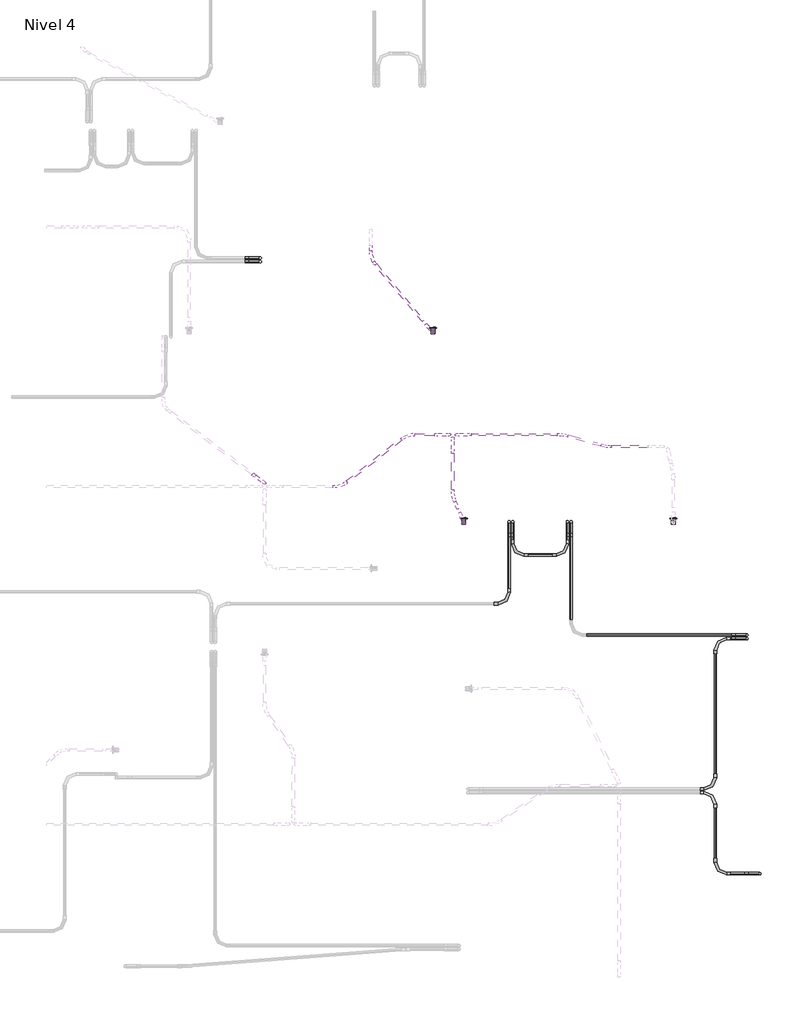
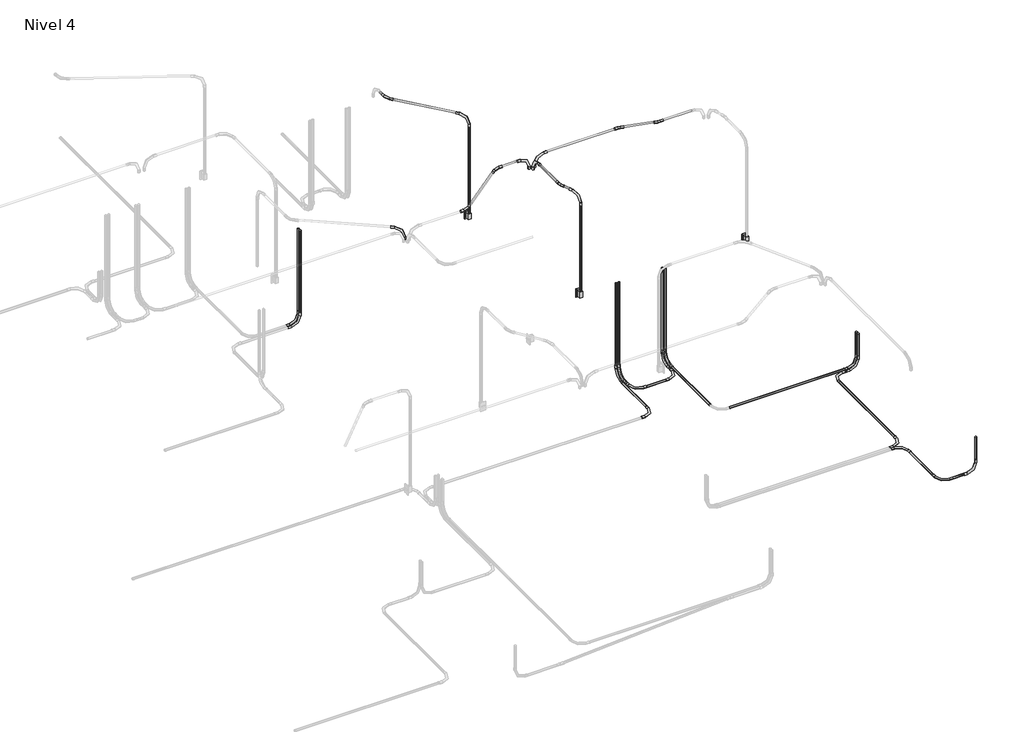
# One storey, part 4 of 9: 30 cable carrier segments, 28 cable carrier fittings, 3 switching devices.
"""IFC4 building model written with IfcOpenShell, lengths in millimetres."""

from ifc_helpers import new_model, si_unit, point, frame, frame_2d, origin, place, context, project, spatial, circle_curve, trimmed, segment, composite_curve, outline, extrude, transform, mapped, element, save
from components import m_codo_de_tubo_extremo_liso_pvc_9da73e12, m_codo_de_tubo_extremo_liso_pvc_102f0f41, m_codo_de_tubo_extremo_liso_pvc_ceb821ea, m_codo_de_tubo_extremo_liso_pvc_a7355fb1, m_codo_de_tubo_extremo_liso_pvc_d450ba0d, m_codo_de_tubo_extremo_liso_pvc_b46efc4b, switching_device_22fed34b

model = new_model("IFC4")

# Units and contexts
model_context = context("Model", 3, world=origin())
ifc_project = project(units=[si_unit("LENGTHUNIT", "METRE", prefix="MILLI")], contexts=[model_context])

# Site, building, storey
site = spatial("IfcSite", under=ifc_project)
building = spatial("IfcBuilding", under=site)
storey = spatial("IfcBuildingStorey", under=building, Name="Nivel 4", Elevation=8100.0)

# Cable carrier fittings
placement = place(None, origin())
m_codo_de_tubo_extremo_liso_pvc_shape = m_codo_de_tubo_extremo_liso_pvc_9da73e12(model_context)
element("IfcCableCarrierFitting", 1, ObjectType="M_Codo de tubo - Extremo liso - PVC : CODO POTENCIA", at=placement, inside=storey, context=model_context, shape_type="MappedRepresentation", body=[
    mapped(m_codo_de_tubo_extremo_liso_pvc_shape, transform((4214.6371118, 7687.1296392, 8030.0), x_axis=(0.0, 0.0, -1.0), y_axis=(-1.0, 0.0, 0.0), z_axis=(0.0, 1.0, 0.0))),
])
element("IfcCableCarrierFitting", 2, ObjectType="M_Codo de tubo - Extremo liso - PVC : CODO POTENCIA", at=placement, inside=storey, context=model_context, shape_type="MappedRepresentation", body=[
    mapped(m_codo_de_tubo_extremo_liso_pvc_shape, transform((4214.6371118, 7723.1932788, 8030.0), x_axis=(0.0, 0.0, -1.0), y_axis=(-1.0, 0.0, 0.0), z_axis=(0.0, 1.0, 0.0))),
])
element("IfcCableCarrierFitting", 3, ObjectType="M_Codo de tubo - Extremo liso - PVC : CODO POTENCIA", at=placement, inside=storey, context=model_context, shape_type="MappedRepresentation", body=[
    mapped(m_codo_de_tubo_extremo_liso_pvc_shape, transform((9244.6371118, 1529.9675815, 8030.0), x_axis=(0.0, 0.0, -1.0), y_axis=(-1.0, 0.0, 0.0), z_axis=(0.0, 1.0, 0.0))),
])
element("IfcCableCarrierFitting", 4, ObjectType="M_Codo de tubo - Extremo liso - PVC : CODO POTENCIA", at=placement, inside=storey, context=model_context, shape_type="MappedRepresentation", body=[
    mapped(m_codo_de_tubo_extremo_liso_pvc_shape, transform((9114.6371118, 3893.7800226, 8030.0), x_axis=(0.0, 0.0, -1.0), y_axis=(-1.0, 0.0, 0.0), z_axis=(0.0, 1.0, 0.0))),
])
element("IfcCableCarrierFitting", 5, ObjectType="M_Codo de tubo - Extremo liso - PVC : CODO POTENCIA", at=placement, inside=storey, context=model_context, shape_type="MappedRepresentation", body=[
    mapped(m_codo_de_tubo_extremo_liso_pvc_shape, transform((8794.6371118, 2344.5282763, 8030.0), x_axis=(0.0, 1.0, 0.0), y_axis=(-1.0, 0.0, 0.0), z_axis=(0.0, 0.0, 1.0))),
])
element("IfcCableCarrierFitting", 6, ObjectType="M_Codo de tubo - Extremo liso - PVC : CODO POTENCIA", at=placement, inside=storey, context=model_context, shape_type="MappedRepresentation", body=[
    mapped(m_codo_de_tubo_extremo_liso_pvc_shape, transform((8794.6371118, 1529.9675815, 8030.0), x_axis=(0.0, -1.0, 0.0), y_axis=(1.0, 0.0, 0.0), z_axis=(0.0, 0.0, 1.0))),
])
element("IfcCableCarrierFitting", 7, ObjectType="M_Codo de tubo - Extremo liso - PVC : CODO POTENCIA", at=placement, inside=storey, context=model_context, shape_type="MappedRepresentation", body=[
    mapped(m_codo_de_tubo_extremo_liso_pvc_shape, transform((8794.6371118, 3893.7800226, 8030.0), x_axis=(-1.0, 0.0, 0.0), y_axis=(0.0, -1.0, 0.0), z_axis=(0.0, 0.0, 1.0))),
])
element("IfcCableCarrierFitting", 8, ObjectType="M_Codo de tubo - Extremo liso - PVC : CODO POTENCIA", at=placement, inside=storey, context=model_context, shape_type="MappedRepresentation", body=[
    mapped(m_codo_de_tubo_extremo_liso_pvc_shape, transform((8794.6371118, 2380.5919159, 8030.0), x_axis=(1.0, 0.0, 0.0), y_axis=(0.0, 1.0, 0.0), z_axis=(0.0, 0.0, 1.0))),
])
element("IfcCableCarrierFitting", 9, ObjectType="M_Codo de tubo - Extremo liso - PVC : CODO POTENCIA", at=placement, inside=storey, context=model_context, shape_type="MappedRepresentation", body=[
    mapped(m_codo_de_tubo_extremo_liso_pvc_shape, transform((7343.1290455, 5070.3628882, 8030.0), x_axis=(0.0, 0.0, -1.0), y_axis=(0.0, -1.0, 0.0), z_axis=(-1.0, 0.0, 0.0))),
])
element("IfcCableCarrierFitting", 10, ObjectType="M_Codo de tubo - Extremo liso - PVC : CODO POTENCIA", at=placement, inside=storey, context=model_context, shape_type="MappedRepresentation", body=[
    mapped(m_codo_de_tubo_extremo_liso_pvc_shape, transform((7307.0654059, 5070.3628882, 8030.0), x_axis=(0.0, 0.0, -1.0), y_axis=(0.0, -1.0, 0.0), z_axis=(-1.0, 0.0, 0.0))),
])
element("IfcCableCarrierFitting", 11, ObjectType="M_Codo de tubo - Extremo liso - PVC : CODO POTENCIA", at=placement, inside=storey, context=model_context, shape_type="MappedRepresentation", body=[
    mapped(m_codo_de_tubo_extremo_liso_pvc_shape, transform((6755.4901534, 5070.3628882, 8030.0), x_axis=(0.0, 0.0, -1.0), y_axis=(0.0, -1.0, 0.0), z_axis=(-1.0, 0.0, 0.0))),
])
element("IfcCableCarrierFitting", 12, ObjectType="M_Codo de tubo - Extremo liso - PVC : CODO POTENCIA", at=placement, inside=storey, context=model_context, shape_type="MappedRepresentation", body=[
    mapped(m_codo_de_tubo_extremo_liso_pvc_shape, transform((6719.4265137, 5070.3628882, 8030.0), x_axis=(0.0, 0.0, -1.0), y_axis=(0.0, -1.0, 0.0), z_axis=(-1.0, 0.0, 0.0))),
])
element("IfcCableCarrierFitting", 13, ObjectType="M_Codo de tubo - Extremo liso - PVC : CODO POTENCIA", at=placement, inside=storey, context=model_context, shape_type="MappedRepresentation", body=[
    mapped(m_codo_de_tubo_extremo_liso_pvc_shape, transform((7307.0654059, 4735.4544528, 8030.0), x_axis=(1.0, 0.0, 0.0), y_axis=(0.0, 1.0, 0.0), z_axis=(0.0, 0.0, 1.0))),
])
element("IfcCableCarrierFitting", 14, ObjectType="M_Codo de tubo - Extremo liso - PVC : CODO POTENCIA", at=placement, inside=storey, context=model_context, shape_type="MappedRepresentation", body=[
    mapped(m_codo_de_tubo_extremo_liso_pvc_shape, transform((6755.4901534, 4735.4544528, 8030.0), x_axis=(0.0, -1.0, 0.0), y_axis=(1.0, 0.0, 0.0), z_axis=(0.0, 0.0, 1.0))),
])
element("IfcCableCarrierFitting", 15, ObjectType="M_Codo de tubo - Extremo liso - PVC : CODO POTENCIA", at=placement, inside=storey, context=model_context, shape_type="MappedRepresentation", body=[
    mapped(m_codo_de_tubo_extremo_liso_pvc_shape, transform((9114.6371118, 3929.8436623, 8030.0), x_axis=(0.0, 0.0, -1.0), y_axis=(-1.0, 0.0, 0.0), z_axis=(0.0, 1.0, 0.0))),
])
element("IfcCableCarrierFitting", 16, ObjectType="M_Codo de tubo - Extremo liso - PVC : CODO POTENCIA", at=placement, inside=storey, context=model_context, shape_type="MappedRepresentation", body=[
    mapped(m_codo_de_tubo_extremo_liso_pvc_shape, transform((6719.4265137, 4245.3628882, 8030.0), x_axis=(1.0, 0.0, 0.0), y_axis=(0.0, 1.0, 0.0), z_axis=(0.0, 0.0, 1.0))),
])
element("IfcCableCarrierFitting", 17, ObjectType="M_Codo de tubo - Extremo liso - PVC : CODO ILUMINACION", at=placement, inside=storey, context=model_context, shape_type="MappedRepresentation", body=[
    mapped(m_codo_de_tubo_extremo_liso_pvc_shape, transform((6187.5450067, 5945.2494875, 10650.0), x_axis=(-1.0, 0.0, 0.0), y_axis=(0.0, 0.0, -1.0), z_axis=(0.0, -1.0, 0.0))),
])
element("IfcCableCarrierFitting", 18, ObjectType="M_Codo de tubo - Extremo liso - PVC : CODO ILUMINACION", at=placement, inside=storey, context=model_context, shape_type="MappedRepresentation", body=[
    mapped(m_codo_de_tubo_extremo_liso_pvc_shape, transform((6151.3238073, 5913.4404259, 10650.0), x_axis=(0.0, 1.0, 0.0), y_axis=(0.0, 0.0, -1.0), z_axis=(-1.0, 0.0, 0.0))),
])
element("IfcCableCarrierFitting", 19, ObjectType="M_Codo de tubo - Extremo liso - PVC : CODO ILUMINACION", at=placement, inside=storey, context=model_context, shape_type="MappedRepresentation", body=[
    mapped(m_codo_de_tubo_extremo_liso_pvc_shape, transform((6262.8378124, 5056.8611243, 10650.0), x_axis=(0.0, 0.0, 1.0), y_axis=(-0.3790250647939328, 0.9253864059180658, 0.0), z_axis=(-0.9253864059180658, -0.3790250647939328, 0.0))),
])
element("IfcCableCarrierFitting", 20, ObjectType="M_Codo de tubo - Extremo liso - PVC : CODO ILUMINACION", at=placement, inside=storey, context=model_context, shape_type="MappedRepresentation", body=[
    mapped(m_codo_de_tubo_extremo_liso_pvc_shape, transform((5952.4011855, 6971.8611243, 10650.0), x_axis=(0.0, 0.0, 1.0), y_axis=(-0.6427876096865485, 0.7660444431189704, 0.0), z_axis=(-0.7660444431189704, -0.6427876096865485, 0.0))),
])
m_codo_de_tubo_extremo_liso_pvc_2_shape = m_codo_de_tubo_extremo_liso_pvc_102f0f41(model_context)
element("IfcCableCarrierFitting", 21, ObjectType="M_Codo de tubo - Extremo liso - PVC : CODO ILUMINACION", at=placement, inside=storey, context=model_context, shape_type="MappedRepresentation", body=[
    mapped(m_codo_de_tubo_extremo_liso_pvc_2_shape, transform((6119.5147457, 5945.2494875, 10650.0), x_axis=(1.0, 0.0, 0.0), y_axis=(0.0, 0.0, 1.0), z_axis=(0.0, -1.0, 0.0))),
])
element("IfcCableCarrierFitting", 22, ObjectType="M_Codo de tubo - Extremo liso - PVC : CODO ILUMINACION", at=placement, inside=storey, context=model_context, shape_type="MappedRepresentation", body=[
    mapped(m_codo_de_tubo_extremo_liso_pvc_2_shape, transform((4258.2410998, 5458.3054211, 10650.0), x_axis=(0.798635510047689, -0.6018150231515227, 0.0), y_axis=(0.0, 0.0, 1.0), z_axis=(-0.6018150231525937, -0.7986355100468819, 0.0))),
])
m_codo_de_tubo_extremo_liso_pvc_3_shape = m_codo_de_tubo_extremo_liso_pvc_ceb821ea(model_context)
element("IfcCableCarrierFitting", 23, ObjectType="M_Codo de tubo - Extremo liso - PVC : CODO ILUMINACION", at=placement, inside=storey, context=model_context, shape_type="MappedRepresentation", body=[
    mapped(m_codo_de_tubo_extremo_liso_pvc_3_shape, transform((7259.9450067, 5945.2494875, 10650.0), x_axis=(-0.9646302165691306, 0.2636068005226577, 0.0), y_axis=(-0.2636068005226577, -0.9646302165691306, 0.0), z_axis=(0.0, 0.0, 1.0))),
])
element("IfcCableCarrierFitting", 24, ObjectType="M_Codo de tubo - Extremo liso - PVC : CODO ILUMINACION", at=placement, inside=storey, context=model_context, shape_type="MappedRepresentation", body=[
    mapped(m_codo_de_tubo_extremo_liso_pvc_3_shape, transform((7696.9235905, 5825.8353075, 10650.0), x_axis=(0.9646302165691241, -0.2636068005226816, 0.0), y_axis=(0.2636068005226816, 0.9646302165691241, 0.0), z_axis=(0.0, 0.0, 1.0))),
])
m_codo_de_tubo_extremo_liso_pvc_4_shape = m_codo_de_tubo_extremo_liso_pvc_a7355fb1(model_context)
element("IfcCableCarrierFitting", 25, ObjectType="M_Codo de tubo - Extremo liso - PVC : CODO ILUMINACION", at=placement, inside=storey, context=model_context, shape_type="MappedRepresentation", body=[
    mapped(m_codo_de_tubo_extremo_liso_pvc_4_shape, transform((5693.9543175, 5945.2494875, 10650.0), x_axis=(-1.0, 0.0, 0.0), y_axis=(0.0, -1.0, 0.0), z_axis=(0.0, 0.0, 1.0))),
])
element("IfcCableCarrierFitting", 26, ObjectType="M_Codo de tubo - Extremo liso - PVC : CODO ILUMINACION", at=placement, inside=storey, context=model_context, shape_type="MappedRepresentation", body=[
    mapped(m_codo_de_tubo_extremo_liso_pvc_4_shape, transform((5025.7404165, 5423.1835713, 10650.0), x_axis=(1.0, 0.0, 0.0), y_axis=(0.0, 1.0, 0.0), z_axis=(0.0, 0.0, 1.0))),
])
m_codo_de_tubo_extremo_liso_pvc_5_shape = m_codo_de_tubo_extremo_liso_pvc_d450ba0d(model_context)
element("IfcCableCarrierFitting", 27, ObjectType="M_Codo de tubo - Extremo liso - PVC : CODO ILUMINACION", at=placement, inside=storey, context=model_context, shape_type="MappedRepresentation", body=[
    mapped(m_codo_de_tubo_extremo_liso_pvc_5_shape, transform((6151.3238073, 5329.1215998, 10650.0), x_axis=(0.0, -1.0, 0.0), y_axis=(1.0, 0.0, 0.0), z_axis=(0.0, 0.0, 1.0))),
])
m_codo_de_tubo_extremo_liso_pvc_6_shape = m_codo_de_tubo_extremo_liso_pvc_b46efc4b(model_context)
element("IfcCableCarrierFitting", 28, ObjectType="M_Codo de tubo - Extremo liso - PVC : CODO ILUMINACION", at=placement, inside=storey, context=model_context, shape_type="MappedRepresentation", body=[
    mapped(m_codo_de_tubo_extremo_liso_pvc_6_shape, transform((5326.8335186, 7717.3836388, 10650.0), x_axis=(0.0, -1.0, 0.0), y_axis=(1.0, 0.0, 0.0), z_axis=(0.0, 0.0, 1.0))),
])

# Cable carrier segments
element("IfcCableCarrierSegment", 29, ObjectType="PVC-SEL, POTENCIA", at=placement, inside=storey, context=model_context, shape_type="SweptSolid", body=[
    extrude(outline(composite_curve([segment(trimmed(circle_curve(frame_2d((4214.6371118, 7723.1932788)), 11.71), [point((4226.3471118, 7723.1932788))], [point((4214.6371118, 7711.4832788))], False, "CARTESIAN"), True, "CONTINUOUS"), segment(trimmed(circle_curve(frame_2d((4214.6371118, 7723.1932788)), 11.71), [point((4214.6371118, 7711.4832788))], [point((4202.9271118, 7723.1932788))], False, "CARTESIAN"), True, "CONTINUOUS"), segment(trimmed(circle_curve(frame_2d((4214.6371118, 7723.1932788)), 11.71), [point((4202.9271118, 7723.1932788))], [point((4214.6371118, 7734.9032788))], False, "CARTESIAN"), True, "CONTINUOUS"), segment(trimmed(circle_curve(frame_2d((4214.6371118, 7723.1932788)), 11.71), [point((4214.6371118, 7734.9032788))], [point((4226.3471118, 7723.1932788))], False, "CARTESIAN"), True, "CONTINUOUS")], self_intersect=False)), frame((0.0, 0.0, 8182.4), z_axis=(0.0, 0.0, 1.0), x_axis=(1.0, 0.0, 0.0)), (0.0, 0.0, 1.0), 1097.3020537),
])
element("IfcCableCarrierSegment", 30, ObjectType="PVC-SEL, POTENCIA", at=placement, inside=storey, context=model_context, shape_type="SweptSolid", body=[
    extrude(outline(composite_curve([segment(trimmed(circle_curve(frame_2d((4214.6371118, 7687.1296392)), 11.71), [point((4226.3471118, 7687.1296392))], [point((4214.6371118, 7675.4196392))], False, "CARTESIAN"), True, "CONTINUOUS"), segment(trimmed(circle_curve(frame_2d((4214.6371118, 7687.1296392)), 11.71), [point((4214.6371118, 7675.4196392))], [point((4202.9271118, 7687.1296392))], False, "CARTESIAN"), True, "CONTINUOUS"), segment(trimmed(circle_curve(frame_2d((4214.6371118, 7687.1296392)), 11.71), [point((4202.9271118, 7687.1296392))], [point((4214.6371118, 7698.8396392))], False, "CARTESIAN"), True, "CONTINUOUS"), segment(trimmed(circle_curve(frame_2d((4214.6371118, 7687.1296392)), 11.71), [point((4214.6371118, 7698.8396392))], [point((4226.3471118, 7687.1296392))], False, "CARTESIAN"), True, "CONTINUOUS")], self_intersect=False)), frame((0.0, 0.0, 8182.4), z_axis=(0.0, 0.0, 1.0), x_axis=(1.0, 0.0, 0.0)), (0.0, 0.0, 1.0), 1097.3020537),
])
element("IfcCableCarrierSegment", 31, ObjectType="PVC-SEL, POTENCIA", at=placement, inside=storey, context=model_context, shape_type="SweptSolid", body=[
    extrude(outline(composite_curve([segment(trimmed(circle_curve(frame_2d((1529.9675815, 8030.0)), 11.71), [point((1541.6775815, 8030.0))], [point((1529.9675815, 8018.29))], False, "CARTESIAN"), True, "CONTINUOUS"), segment(trimmed(circle_curve(frame_2d((1529.9675815, 8030.0)), 11.71), [point((1529.9675815, 8018.29))], [point((1518.2575815, 8030.0))], False, "CARTESIAN"), True, "CONTINUOUS"), segment(trimmed(circle_curve(frame_2d((1529.9675815, 8030.0)), 11.71), [point((1518.2575815, 8030.0))], [point((1529.9675815, 8041.71))], False, "CARTESIAN"), True, "CONTINUOUS"), segment(trimmed(circle_curve(frame_2d((1529.9675815, 8030.0)), 11.71), [point((1529.9675815, 8041.71))], [point((1541.6775815, 8030.0))], False, "CARTESIAN"), True, "CONTINUOUS")], self_intersect=False)), frame((8947.0371118, 0.0, 0.0), z_axis=(1.0, 0.0, 0.0), x_axis=(0.0, 1.0, 0.0)), (0.0, 0.0, 1.0), 145.2),
])
element("IfcCableCarrierSegment", 32, ObjectType="PVC-SEL, POTENCIA", at=placement, inside=storey, context=model_context, shape_type="SweptSolid", body=[
    extrude(outline(composite_curve([segment(trimmed(circle_curve(frame_2d((9244.6371118, 1529.9675815)), 11.71), [point((9256.3471118, 1529.9675815))], [point((9244.6371118, 1518.2575815))], False, "CARTESIAN"), True, "CONTINUOUS"), segment(trimmed(circle_curve(frame_2d((9244.6371118, 1529.9675815)), 11.71), [point((9244.6371118, 1518.2575815))], [point((9232.9271118, 1529.9675815))], False, "CARTESIAN"), True, "CONTINUOUS"), segment(trimmed(circle_curve(frame_2d((9244.6371118, 1529.9675815)), 11.71), [point((9232.9271118, 1529.9675815))], [point((9244.6371118, 1541.6775815))], False, "CARTESIAN"), True, "CONTINUOUS"), segment(trimmed(circle_curve(frame_2d((9244.6371118, 1529.9675815)), 11.71), [point((9244.6371118, 1541.6775815))], [point((9256.3471118, 1529.9675815))], False, "CARTESIAN"), True, "CONTINUOUS")], self_intersect=False)), frame((0.0, 0.0, 8182.4), z_axis=(0.0, 0.0, 1.0), x_axis=(1.0, 0.0, 0.0)), (0.0, 0.0, 1.0), 297.3020537),
])
element("IfcCableCarrierSegment", 33, ObjectType="PVC-SEL, POTENCIA", at=placement, inside=storey, context=model_context, shape_type="SweptSolid", body=[
    extrude(outline(composite_curve([segment(trimmed(circle_curve(frame_2d((3929.8436623, 8030.0)), 11.71), [point((3918.1336623, 8030.0))], [point((3929.8436623, 8041.71))], False, "CARTESIAN"), True, "CONTINUOUS"), segment(trimmed(circle_curve(frame_2d((3929.8436623, 8030.0)), 11.71), [point((3929.8436623, 8041.71))], [point((3941.5536623, 8030.0))], False, "CARTESIAN"), True, "CONTINUOUS"), segment(trimmed(circle_curve(frame_2d((3929.8436623, 8030.0)), 11.71), [point((3941.5536623, 8030.0))], [point((3929.8436623, 8018.29))], False, "CARTESIAN"), True, "CONTINUOUS"), segment(trimmed(circle_curve(frame_2d((3929.8436623, 8030.0)), 11.71), [point((3929.8436623, 8018.29))], [point((3918.1336623, 8030.0))], False, "CARTESIAN"), True, "CONTINUOUS")], self_intersect=False)), frame((7495.5290455, 0.0, 0.0), z_axis=(1.0, 0.0, 0.0), x_axis=(0.0, 1.0, 0.0)), (0.0, 0.0, 1.0), 1466.7080662),
])
element("IfcCableCarrierSegment", 34, ObjectType="PVC-SEL, POTENCIA", at=placement, inside=storey, context=model_context, shape_type="SweptSolid", body=[
    extrude(outline(composite_curve([segment(trimmed(circle_curve(frame_2d((9114.6371118, 3929.8436623)), 11.71), [point((9126.3471118, 3929.8436623))], [point((9114.6371118, 3918.1336623))], False, "CARTESIAN"), True, "CONTINUOUS"), segment(trimmed(circle_curve(frame_2d((9114.6371118, 3929.8436623)), 11.71), [point((9114.6371118, 3918.1336623))], [point((9102.9271118, 3929.8436623))], False, "CARTESIAN"), True, "CONTINUOUS"), segment(trimmed(circle_curve(frame_2d((9114.6371118, 3929.8436623)), 11.71), [point((9102.9271118, 3929.8436623))], [point((9114.6371118, 3941.5536623))], False, "CARTESIAN"), True, "CONTINUOUS"), segment(trimmed(circle_curve(frame_2d((9114.6371118, 3929.8436623)), 11.71), [point((9114.6371118, 3941.5536623))], [point((9126.3471118, 3929.8436623))], False, "CARTESIAN"), True, "CONTINUOUS")], self_intersect=False)), frame((0.0, 0.0, 8182.4), z_axis=(0.0, 0.0, 1.0), x_axis=(1.0, 0.0, 0.0)), (0.0, 0.0, 1.0), 297.3020537),
])
element("IfcCableCarrierSegment", 35, ObjectType="PVC-SEL, POTENCIA", at=placement, inside=storey, context=model_context, shape_type="SweptSolid", body=[
    extrude(outline(composite_curve([segment(trimmed(circle_curve(frame_2d((3893.7800226, 8030.0)), 11.71), [point((3905.4900226, 8030.0))], [point((3893.7800226, 8018.29))], False, "CARTESIAN"), True, "CONTINUOUS"), segment(trimmed(circle_curve(frame_2d((3893.7800226, 8030.0)), 11.71), [point((3893.7800226, 8018.29))], [point((3882.0700226, 8030.0))], False, "CARTESIAN"), True, "CONTINUOUS"), segment(trimmed(circle_curve(frame_2d((3893.7800226, 8030.0)), 11.71), [point((3882.0700226, 8030.0))], [point((3893.7800226, 8041.71))], False, "CARTESIAN"), True, "CONTINUOUS"), segment(trimmed(circle_curve(frame_2d((3893.7800226, 8030.0)), 11.71), [point((3893.7800226, 8041.71))], [point((3905.4900226, 8030.0))], False, "CARTESIAN"), True, "CONTINUOUS")], self_intersect=False)), frame((8947.0371118, 0.0, 0.0), z_axis=(1.0, 0.0, 0.0), x_axis=(0.0, 1.0, 0.0)), (0.0, 0.0, 1.0), 15.2),
])
element("IfcCableCarrierSegment", 36, ObjectType="PVC-SEL, POTENCIA", at=placement, inside=storey, context=model_context, shape_type="SweptSolid", body=[
    extrude(outline(composite_curve([segment(trimmed(circle_curve(frame_2d((9114.6371118, 3893.7800226)), 11.71), [point((9126.3471118, 3893.7800226))], [point((9114.6371118, 3882.0700226))], False, "CARTESIAN"), True, "CONTINUOUS"), segment(trimmed(circle_curve(frame_2d((9114.6371118, 3893.7800226)), 11.71), [point((9114.6371118, 3882.0700226))], [point((9102.9271118, 3893.7800226))], False, "CARTESIAN"), True, "CONTINUOUS"), segment(trimmed(circle_curve(frame_2d((9114.6371118, 3893.7800226)), 11.71), [point((9102.9271118, 3893.7800226))], [point((9114.6371118, 3905.4900226))], False, "CARTESIAN"), True, "CONTINUOUS"), segment(trimmed(circle_curve(frame_2d((9114.6371118, 3893.7800226)), 11.71), [point((9114.6371118, 3905.4900226))], [point((9126.3471118, 3893.7800226))], False, "CARTESIAN"), True, "CONTINUOUS")], self_intersect=False)), frame((0.0, 0.0, 8182.4), z_axis=(0.0, 0.0, 1.0), x_axis=(1.0, 0.0, 0.0)), (0.0, 0.0, 1.0), 297.3020537),
])
element("IfcCableCarrierSegment", 37, ObjectType="PVC-SEL, POTENCIA", at=placement, inside=storey, context=model_context, shape_type="SweptSolid", body=[
    extrude(outline(composite_curve([segment(trimmed(circle_curve(frame_2d((8030.0, 8794.6371118)), 11.71), [point((8030.0, 8782.9271118))], [point((8018.29, 8794.6371118))], False, "CARTESIAN"), True, "CONTINUOUS"), segment(trimmed(circle_curve(frame_2d((8030.0, 8794.6371118)), 11.71), [point((8018.29, 8794.6371118))], [point((8030.0, 8806.3471118))], False, "CARTESIAN"), True, "CONTINUOUS"), segment(trimmed(circle_curve(frame_2d((8030.0, 8794.6371118)), 11.71), [point((8030.0, 8806.3471118))], [point((8041.71, 8794.6371118))], False, "CARTESIAN"), True, "CONTINUOUS"), segment(trimmed(circle_curve(frame_2d((8030.0, 8794.6371118)), 11.71), [point((8041.71, 8794.6371118))], [point((8030.0, 8782.9271118))], False, "CARTESIAN"), True, "CONTINUOUS")], self_intersect=False)), frame((0.0, 1682.3675815, 0.0), z_axis=(0.0, 1.0, 0.0), x_axis=(0.0, 0.0, 1.0)), (0.0, 0.0, 1.0), 509.7606948),
])
element("IfcCableCarrierSegment", 38, ObjectType="PVC-SEL, POTENCIA", at=placement, inside=storey, context=model_context, shape_type="SweptSolid", body=[
    extrude(outline(composite_curve([segment(trimmed(circle_curve(frame_2d((8030.0, 8794.6371118)), 11.71), [point((8030.0, 8782.9271118))], [point((8018.29, 8794.6371118))], False, "CARTESIAN"), True, "CONTINUOUS"), segment(trimmed(circle_curve(frame_2d((8030.0, 8794.6371118)), 11.71), [point((8018.29, 8794.6371118))], [point((8030.0, 8806.3471118))], False, "CARTESIAN"), True, "CONTINUOUS"), segment(trimmed(circle_curve(frame_2d((8030.0, 8794.6371118)), 11.71), [point((8030.0, 8806.3471118))], [point((8041.71, 8794.6371118))], False, "CARTESIAN"), True, "CONTINUOUS"), segment(trimmed(circle_curve(frame_2d((8030.0, 8794.6371118)), 11.71), [point((8041.71, 8794.6371118))], [point((8030.0, 8782.9271118))], False, "CARTESIAN"), True, "CONTINUOUS")], self_intersect=False)), frame((0.0, 2532.9919159, 0.0), z_axis=(0.0, 1.0, 0.0), x_axis=(0.0, 0.0, 1.0)), (0.0, 0.0, 1.0), 1208.3881067),
])
element("IfcCableCarrierSegment", 39, ObjectType="PVC-SEL, POTENCIA", at=placement, inside=storey, context=model_context, shape_type="SweptSolid", body=[
    extrude(outline(composite_curve([segment(trimmed(circle_curve(frame_2d((8030.0, 7343.1290455)), 11.71), [point((8030.0, 7331.4190455))], [point((8018.29, 7343.1290455))], False, "CARTESIAN"), True, "CONTINUOUS"), segment(trimmed(circle_curve(frame_2d((8030.0, 7343.1290455)), 11.71), [point((8018.29, 7343.1290455))], [point((8030.0, 7354.8390455))], False, "CARTESIAN"), True, "CONTINUOUS"), segment(trimmed(circle_curve(frame_2d((8030.0, 7343.1290455)), 11.71), [point((8030.0, 7354.8390455))], [point((8041.71, 7343.1290455))], False, "CARTESIAN"), True, "CONTINUOUS"), segment(trimmed(circle_curve(frame_2d((8030.0, 7343.1290455)), 11.71), [point((8041.71, 7343.1290455))], [point((8030.0, 7331.4190455))], False, "CARTESIAN"), True, "CONTINUOUS")], self_intersect=False)), frame((0.0, 4082.2436623, 0.0), z_axis=(0.0, 1.0, 0.0), x_axis=(0.0, 0.0, 1.0)), (0.0, 0.0, 1.0), 835.7192259),
])
element("IfcCableCarrierSegment", 40, ObjectType="PVC-SEL, POTENCIA", at=placement, inside=storey, context=model_context, shape_type="SweptSolid", body=[
    extrude(outline(composite_curve([segment(trimmed(circle_curve(frame_2d((7343.1290455, 5070.3628882)), 11.71), [point((7354.8390455, 5070.3628882))], [point((7343.1290455, 5058.6528882))], False, "CARTESIAN"), True, "CONTINUOUS"), segment(trimmed(circle_curve(frame_2d((7343.1290455, 5070.3628882)), 11.71), [point((7343.1290455, 5058.6528882))], [point((7331.4190455, 5070.3628882))], False, "CARTESIAN"), True, "CONTINUOUS"), segment(trimmed(circle_curve(frame_2d((7343.1290455, 5070.3628882)), 11.71), [point((7331.4190455, 5070.3628882))], [point((7343.1290455, 5082.0728882))], False, "CARTESIAN"), True, "CONTINUOUS"), segment(trimmed(circle_curve(frame_2d((7343.1290455, 5070.3628882)), 11.71), [point((7343.1290455, 5082.0728882))], [point((7354.8390455, 5070.3628882))], False, "CARTESIAN"), True, "CONTINUOUS")], self_intersect=False)), frame((0.0, 0.0, 8182.4), z_axis=(0.0, 0.0, 1.0), x_axis=(1.0, 0.0, 0.0)), (0.0, 0.0, 1.0), 1097.3020537),
])
element("IfcCableCarrierSegment", 41, ObjectType="PVC-SEL, POTENCIA", at=placement, inside=storey, context=model_context, shape_type="SweptSolid", body=[
    extrude(outline(composite_curve([segment(trimmed(circle_curve(frame_2d((8030.0, 7307.0654059)), 11.71), [point((8030.0, 7295.3554059))], [point((8018.29, 7307.0654059))], False, "CARTESIAN"), True, "CONTINUOUS"), segment(trimmed(circle_curve(frame_2d((8030.0, 7307.0654059)), 11.71), [point((8018.29, 7307.0654059))], [point((8030.0, 7318.7754059))], False, "CARTESIAN"), True, "CONTINUOUS"), segment(trimmed(circle_curve(frame_2d((8030.0, 7307.0654059)), 11.71), [point((8030.0, 7318.7754059))], [point((8041.71, 7307.0654059))], False, "CARTESIAN"), True, "CONTINUOUS"), segment(trimmed(circle_curve(frame_2d((8030.0, 7307.0654059)), 11.71), [point((8041.71, 7307.0654059))], [point((8030.0, 7295.3554059))], False, "CARTESIAN"), True, "CONTINUOUS")], self_intersect=False)), frame((0.0, 4887.8544528, 0.0), z_axis=(0.0, 1.0, 0.0), x_axis=(0.0, 0.0, 1.0)), (0.0, 0.0, 1.0), 30.1084355),
])
element("IfcCableCarrierSegment", 42, ObjectType="PVC-SEL, POTENCIA", at=placement, inside=storey, context=model_context, shape_type="SweptSolid", body=[
    extrude(outline(composite_curve([segment(trimmed(circle_curve(frame_2d((7307.0654059, 5070.3628882)), 11.71), [point((7318.7754059, 5070.3628882))], [point((7307.0654059, 5058.6528882))], False, "CARTESIAN"), True, "CONTINUOUS"), segment(trimmed(circle_curve(frame_2d((7307.0654059, 5070.3628882)), 11.71), [point((7307.0654059, 5058.6528882))], [point((7295.3554059, 5070.3628882))], False, "CARTESIAN"), True, "CONTINUOUS"), segment(trimmed(circle_curve(frame_2d((7307.0654059, 5070.3628882)), 11.71), [point((7295.3554059, 5070.3628882))], [point((7307.0654059, 5082.0728882))], False, "CARTESIAN"), True, "CONTINUOUS"), segment(trimmed(circle_curve(frame_2d((7307.0654059, 5070.3628882)), 11.71), [point((7307.0654059, 5082.0728882))], [point((7318.7754059, 5070.3628882))], False, "CARTESIAN"), True, "CONTINUOUS")], self_intersect=False)), frame((0.0, 0.0, 8182.4), z_axis=(0.0, 0.0, 1.0), x_axis=(1.0, 0.0, 0.0)), (0.0, 0.0, 1.0), 1097.3020537),
])
element("IfcCableCarrierSegment", 43, ObjectType="PVC-SEL, POTENCIA", at=placement, inside=storey, context=model_context, shape_type="SweptSolid", body=[
    extrude(outline(composite_curve([segment(trimmed(circle_curve(frame_2d((8030.0, 6755.4901534)), 11.71), [point((8030.0, 6743.7801534))], [point((8018.29, 6755.4901534))], False, "CARTESIAN"), True, "CONTINUOUS"), segment(trimmed(circle_curve(frame_2d((8030.0, 6755.4901534)), 11.71), [point((8018.29, 6755.4901534))], [point((8030.0, 6767.2001534))], False, "CARTESIAN"), True, "CONTINUOUS"), segment(trimmed(circle_curve(frame_2d((8030.0, 6755.4901534)), 11.71), [point((8030.0, 6767.2001534))], [point((8041.71, 6755.4901534))], False, "CARTESIAN"), True, "CONTINUOUS"), segment(trimmed(circle_curve(frame_2d((8030.0, 6755.4901534)), 11.71), [point((8041.71, 6755.4901534))], [point((8030.0, 6743.7801534))], False, "CARTESIAN"), True, "CONTINUOUS")], self_intersect=False)), frame((0.0, 4887.8544528, 0.0), z_axis=(0.0, 1.0, 0.0), x_axis=(0.0, 0.0, 1.0)), (0.0, 0.0, 1.0), 30.1084355),
])
element("IfcCableCarrierSegment", 44, ObjectType="PVC-SEL, POTENCIA", at=placement, inside=storey, context=model_context, shape_type="SweptSolid", body=[
    extrude(outline(composite_curve([segment(trimmed(circle_curve(frame_2d((6755.4901534, 5070.3628882)), 11.71), [point((6767.2001534, 5070.3628882))], [point((6755.4901534, 5058.6528882))], False, "CARTESIAN"), True, "CONTINUOUS"), segment(trimmed(circle_curve(frame_2d((6755.4901534, 5070.3628882)), 11.71), [point((6755.4901534, 5058.6528882))], [point((6743.7801534, 5070.3628882))], False, "CARTESIAN"), True, "CONTINUOUS"), segment(trimmed(circle_curve(frame_2d((6755.4901534, 5070.3628882)), 11.71), [point((6743.7801534, 5070.3628882))], [point((6755.4901534, 5082.0728882))], False, "CARTESIAN"), True, "CONTINUOUS"), segment(trimmed(circle_curve(frame_2d((6755.4901534, 5070.3628882)), 11.71), [point((6755.4901534, 5082.0728882))], [point((6767.2001534, 5070.3628882))], False, "CARTESIAN"), True, "CONTINUOUS")], self_intersect=False)), frame((0.0, 0.0, 8182.4), z_axis=(0.0, 0.0, 1.0), x_axis=(1.0, 0.0, 0.0)), (0.0, 0.0, 1.0), 1097.3020537),
])
element("IfcCableCarrierSegment", 45, ObjectType="PVC-SEL, POTENCIA", at=placement, inside=storey, context=model_context, shape_type="SweptSolid", body=[
    extrude(outline(composite_curve([segment(trimmed(circle_curve(frame_2d((8030.0, 6719.4265137)), 11.71), [point((8030.0, 6707.7165137))], [point((8018.29, 6719.4265137))], False, "CARTESIAN"), True, "CONTINUOUS"), segment(trimmed(circle_curve(frame_2d((8030.0, 6719.4265137)), 11.71), [point((8018.29, 6719.4265137))], [point((8030.0, 6731.1365137))], False, "CARTESIAN"), True, "CONTINUOUS"), segment(trimmed(circle_curve(frame_2d((8030.0, 6719.4265137)), 11.71), [point((8030.0, 6731.1365137))], [point((8041.71, 6719.4265137))], False, "CARTESIAN"), True, "CONTINUOUS"), segment(trimmed(circle_curve(frame_2d((8030.0, 6719.4265137)), 11.71), [point((8041.71, 6719.4265137))], [point((8030.0, 6707.7165137))], False, "CARTESIAN"), True, "CONTINUOUS")], self_intersect=False)), frame((0.0, 4397.7628882, 0.0), z_axis=(0.0, 1.0, 0.0), x_axis=(0.0, 0.0, 1.0)), (0.0, 0.0, 1.0), 520.2),
])
element("IfcCableCarrierSegment", 46, ObjectType="PVC-SEL, POTENCIA", at=placement, inside=storey, context=model_context, shape_type="SweptSolid", body=[
    extrude(outline(composite_curve([segment(trimmed(circle_curve(frame_2d((6719.4265137, 5070.3628882)), 11.71), [point((6731.1365137, 5070.3628882))], [point((6719.4265137, 5058.6528882))], False, "CARTESIAN"), True, "CONTINUOUS"), segment(trimmed(circle_curve(frame_2d((6719.4265137, 5070.3628882)), 11.71), [point((6719.4265137, 5058.6528882))], [point((6707.7165137, 5070.3628882))], False, "CARTESIAN"), True, "CONTINUOUS"), segment(trimmed(circle_curve(frame_2d((6719.4265137, 5070.3628882)), 11.71), [point((6707.7165137, 5070.3628882))], [point((6719.4265137, 5082.0728882))], False, "CARTESIAN"), True, "CONTINUOUS"), segment(trimmed(circle_curve(frame_2d((6719.4265137, 5070.3628882)), 11.71), [point((6719.4265137, 5082.0728882))], [point((6731.1365137, 5070.3628882))], False, "CARTESIAN"), True, "CONTINUOUS")], self_intersect=False)), frame((0.0, 0.0, 8182.4), z_axis=(0.0, 0.0, 1.0), x_axis=(1.0, 0.0, 0.0)), (0.0, 0.0, 1.0), 1097.3020537),
])
element("IfcCableCarrierSegment", 47, ObjectType="PVC-SEL, POTENCIA", at=placement, inside=storey, context=model_context, shape_type="SweptSolid", body=[
    extrude(outline(composite_curve([segment(trimmed(circle_curve(frame_2d((4735.4544528, 8030.0)), 11.71), [point((4747.1644528, 8030.0))], [point((4735.4544528, 8018.29))], False, "CARTESIAN"), True, "CONTINUOUS"), segment(trimmed(circle_curve(frame_2d((4735.4544528, 8030.0)), 11.71), [point((4735.4544528, 8018.29))], [point((4723.7444528, 8030.0))], False, "CARTESIAN"), True, "CONTINUOUS"), segment(trimmed(circle_curve(frame_2d((4735.4544528, 8030.0)), 11.71), [point((4723.7444528, 8030.0))], [point((4735.4544528, 8041.71))], False, "CARTESIAN"), True, "CONTINUOUS"), segment(trimmed(circle_curve(frame_2d((4735.4544528, 8030.0)), 11.71), [point((4735.4544528, 8041.71))], [point((4747.1644528, 8030.0))], False, "CARTESIAN"), True, "CONTINUOUS")], self_intersect=False)), frame((6907.8901534, 0.0, 0.0), z_axis=(1.0, 0.0, 0.0), x_axis=(0.0, 1.0, 0.0)), (0.0, 0.0, 1.0), 246.7752525),
])
element("IfcCableCarrierSegment", 48, ObjectType="PVC-SEL ILUMINACION", at=placement, inside=storey, context=model_context, shape_type="SweptSolid", body=[
    extrude(outline(composite_curve([segment(trimmed(circle_curve(frame_2d((5945.2494875, 10650.0)), 11.71), [point((5933.5394875, 10650.0))], [point((5945.2494875, 10661.71))], False, "CARTESIAN"), True, "CONTINUOUS"), segment(trimmed(circle_curve(frame_2d((5945.2494875, 10650.0)), 11.71), [point((5945.2494875, 10661.71))], [point((5956.9594875, 10650.0))], False, "CARTESIAN"), True, "CONTINUOUS"), segment(trimmed(circle_curve(frame_2d((5945.2494875, 10650.0)), 11.71), [point((5956.9594875, 10650.0))], [point((5945.2494875, 10638.29))], False, "CARTESIAN"), True, "CONTINUOUS"), segment(trimmed(circle_curve(frame_2d((5945.2494875, 10650.0)), 11.71), [point((5945.2494875, 10638.29))], [point((5933.5394875, 10650.0))], False, "CARTESIAN"), True, "CONTINUOUS")], self_intersect=False)), frame((6339.9450067, 0.0, 0.0), z_axis=(1.0, 0.0, 0.0), x_axis=(0.0, 1.0, 0.0)), (0.0, 0.0, 1.0), 866.5636497),
])
element("IfcCableCarrierSegment", 49, ObjectType="PVC-SEL ILUMINACION", at=placement, inside=storey, context=model_context, shape_type="SweptSolid", body=[
    extrude(outline(composite_curve([segment(trimmed(circle_curve(frame_2d((5825.8353075, 10650.0)), 11.71), [point((5837.5453075, 10650.0))], [point((5825.8353075, 10638.29))], False, "CARTESIAN"), True, "CONTINUOUS"), segment(trimmed(circle_curve(frame_2d((5825.8353075, 10650.0)), 11.71), [point((5825.8353075, 10638.29))], [point((5814.1253075, 10650.0))], False, "CARTESIAN"), True, "CONTINUOUS"), segment(trimmed(circle_curve(frame_2d((5825.8353075, 10650.0)), 11.71), [point((5814.1253075, 10650.0))], [point((5825.8353075, 10661.71))], False, "CARTESIAN"), True, "CONTINUOUS"), segment(trimmed(circle_curve(frame_2d((5825.8353075, 10650.0)), 11.71), [point((5825.8353075, 10661.71))], [point((5837.5453075, 10650.0))], False, "CARTESIAN"), True, "CONTINUOUS")], self_intersect=False)), frame((7750.3599408, 0.0, 0.0), z_axis=(1.0, 0.0, 0.0), x_axis=(0.0, 1.0, 0.0)), (0.0, 0.0, 1.0), 366.5636497),
])
element("IfcCableCarrierSegment", 50, ObjectType="PVC-SEL ILUMINACION", at=placement, inside=storey, context=model_context, shape_type="SweptSolid", body=[
    extrude(outline(composite_curve([segment(trimmed(circle_curve(frame_2d((0.0, -11.71)), 11.71), [point((-11.71, -11.71))], [point((0.0, 0.0))], False, "CARTESIAN"), True, "CONTINUOUS"), segment(trimmed(circle_curve(frame_2d((0.0, -11.71)), 11.71), [point((0.0, 0.0))], [point((11.7100001, -11.71))], False, "CARTESIAN"), True, "CONTINUOUS"), segment(trimmed(circle_curve(frame_2d((0.0, -11.71)), 11.71), [point((11.7100001, -11.71))], [point((0.0, -23.42))], False, "CARTESIAN"), True, "CONTINUOUS"), segment(trimmed(circle_curve(frame_2d((0.0, -11.71)), 11.71), [point((0.0, -23.42))], [point((-11.71, -11.71))], False, "CARTESIAN"), True, "CONTINUOUS")], self_intersect=False)), frame((7645.3772723, 5839.9214928, 10638.29), z_axis=(-0.9646302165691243, 0.26360680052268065, 0.0), x_axis=(0.26360680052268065, 0.9646302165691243, 0.0)), (0.0, 0.0, 1.0), 346.1284352),
])
element("IfcCableCarrierSegment", 51, ObjectType="PVC-SEL ILUMINACION", at=placement, inside=storey, context=model_context, shape_type="SweptSolid", body=[
    extrude(outline(composite_curve([segment(trimmed(circle_curve(frame_2d((0.0, -11.71)), 11.71), [point((-11.7100001, -11.71))], [point((0.0, 0.0))], False, "CARTESIAN"), True, "CONTINUOUS"), segment(trimmed(circle_curve(frame_2d((0.0, -11.71)), 11.71), [point((0.0, 0.0))], [point((11.71, -11.71))], False, "CARTESIAN"), True, "CONTINUOUS"), segment(trimmed(circle_curve(frame_2d((0.0, -11.71)), 11.71), [point((11.71, -11.71))], [point((0.0, -23.42))], False, "CARTESIAN"), True, "CONTINUOUS"), segment(trimmed(circle_curve(frame_2d((0.0, -11.71)), 11.71), [point((0.0, -23.42))], [point((-11.7100001, -11.71))], False, "CARTESIAN"), True, "CONTINUOUS")], self_intersect=False)), frame((5086.7770866, 5470.8706443, 10638.29), z_axis=(0.7880107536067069, 0.6156614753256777, 0.0), x_axis=(0.6156614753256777, -0.7880107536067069, 0.0)), (0.0, 0.0, 1.0), 693.0623195),
])
element("IfcCableCarrierSegment", 52, ObjectType="PVC-SEL ILUMINACION", at=placement, inside=storey, context=model_context, shape_type="SweptSolid", body=[
    extrude(outline(composite_curve([segment(trimmed(circle_curve(frame_2d((5945.2494875, 10650.0)), 11.71), [point((5956.9594875, 10650.0))], [point((5945.2494875, 10638.29))], False, "CARTESIAN"), True, "CONTINUOUS"), segment(trimmed(circle_curve(frame_2d((5945.2494875, 10650.0)), 11.71), [point((5945.2494875, 10638.29))], [point((5933.5394875, 10650.0))], False, "CARTESIAN"), True, "CONTINUOUS"), segment(trimmed(circle_curve(frame_2d((5945.2494875, 10650.0)), 11.71), [point((5933.5394875, 10650.0))], [point((5945.2494875, 10661.71))], False, "CARTESIAN"), True, "CONTINUOUS"), segment(trimmed(circle_curve(frame_2d((5945.2494875, 10650.0)), 11.71), [point((5945.2494875, 10661.71))], [point((5956.9594875, 10650.0))], False, "CARTESIAN"), True, "CONTINUOUS")], self_intersect=False)), frame((5771.4109637, 0.0, 0.0), z_axis=(1.0, 0.0, 0.0), x_axis=(0.0, 1.0, 0.0)), (0.0, 0.0, 1.0), 195.703782),
])
element("IfcCableCarrierSegment", 53, ObjectType="PVC-SEL ILUMINACION", at=placement, inside=storey, context=model_context, shape_type="SweptSolid", body=[
    extrude(outline(composite_curve([segment(trimmed(circle_curve(frame_2d((0.0, 11.71)), 11.71), [point((11.71, 11.71))], [point((0.0, 0.0))], False, "CARTESIAN"), True, "CONTINUOUS"), segment(trimmed(circle_curve(frame_2d((0.0, 11.71)), 11.71), [point((0.0, 0.0))], [point((-11.71, 11.71))], False, "CARTESIAN"), True, "CONTINUOUS"), segment(trimmed(circle_curve(frame_2d((0.0, 11.71)), 11.71), [point((-11.71, 11.71))], [point((0.0, 23.42))], False, "CARTESIAN"), True, "CONTINUOUS"), segment(trimmed(circle_curve(frame_2d((0.0, 11.71)), 11.71), [point((0.0, 23.42))], [point((11.71, 11.71))], False, "CARTESIAN"), True, "CONTINUOUS")], self_intersect=False)), frame((6205.0743925, 5197.8900126, 10661.71), z_axis=(-0.3790250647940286, 0.9253864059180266, 0.0), x_axis=(0.9253864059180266, 0.3790250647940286, 0.0)), (0.0, 0.0, 1.0), 81.2120339),
])
element("IfcCableCarrierSegment", 54, ObjectType="PVC-SEL ILUMINACION", at=placement, inside=storey, context=model_context, shape_type="SweptSolid", body=[
    extrude(outline(composite_curve([segment(trimmed(circle_curve(frame_2d((6262.8378124, 5056.8611243)), 11.71), [point((6251.1278124, 5056.8611243))], [point((6262.8378124, 5068.5711243))], False, "CARTESIAN"), True, "CONTINUOUS"), segment(trimmed(circle_curve(frame_2d((6262.8378124, 5056.8611243)), 11.71), [point((6262.8378124, 5068.5711243))], [point((6274.5478124, 5056.8611243))], False, "CARTESIAN"), True, "CONTINUOUS"), segment(trimmed(circle_curve(frame_2d((6262.8378124, 5056.8611243)), 11.71), [point((6274.5478124, 5056.8611243))], [point((6262.8378124, 5045.1511243))], False, "CARTESIAN"), True, "CONTINUOUS"), segment(trimmed(circle_curve(frame_2d((6262.8378124, 5056.8611243)), 11.71), [point((6262.8378124, 5045.1511243))], [point((6251.1278124, 5056.8611243))], False, "CARTESIAN"), True, "CONTINUOUS")], self_intersect=False)), frame((0.0, 0.0, 9340.2227463), z_axis=(0.0, 0.0, 1.0), x_axis=(1.0, 0.0, 0.0)), (0.0, 0.0, 1.0), 1157.3772537),
])
element("IfcCableCarrierSegment", 55, ObjectType="PVC-SEL ILUMINACION", at=placement, inside=storey, context=model_context, shape_type="SweptSolid", body=[
    extrude(outline(composite_curve([segment(trimmed(circle_curve(frame_2d((10650.0, 6151.3238073)), 11.71), [point((10650.0, 6139.6138073))], [point((10638.29, 6151.3238073))], False, "CARTESIAN"), True, "CONTINUOUS"), segment(trimmed(circle_curve(frame_2d((10650.0, 6151.3238073)), 11.71), [point((10638.29, 6151.3238073))], [point((10650.0, 6163.0338073))], False, "CARTESIAN"), True, "CONTINUOUS"), segment(trimmed(circle_curve(frame_2d((10650.0, 6151.3238073)), 11.71), [point((10650.0, 6163.0338073))], [point((10661.71, 6151.3238073))], False, "CARTESIAN"), True, "CONTINUOUS"), segment(trimmed(circle_curve(frame_2d((10650.0, 6151.3238073)), 11.71), [point((10661.71, 6151.3238073))], [point((10650.0, 6139.6138073))], False, "CARTESIAN"), True, "CONTINUOUS")], self_intersect=False)), frame((0.0, 5389.7223118, 0.0), z_axis=(0.0, 1.0, 0.0), x_axis=(0.0, 0.0, 1.0)), (0.0, 0.0, 1.0), 371.3181141),
])
element("IfcCableCarrierSegment", 56, ObjectType="PVC-SEL ILUMINACION", at=placement, inside=storey, context=model_context, shape_type="SweptSolid", body=[
    extrude(outline(composite_curve([segment(trimmed(circle_curve(frame_2d((0.0, -11.71)), 11.71), [point((-11.71, -11.71))], [point((0.0, 0.0))], False, "CARTESIAN"), True, "CONTINUOUS"), segment(trimmed(circle_curve(frame_2d((0.0, -11.71)), 11.71), [point((0.0, 0.0))], [point((11.71, -11.71))], False, "CARTESIAN"), True, "CONTINUOUS"), segment(trimmed(circle_curve(frame_2d((0.0, -11.71)), 11.71), [point((11.71, -11.71))], [point((0.0, -23.42))], False, "CARTESIAN"), True, "CONTINUOUS"), segment(trimmed(circle_curve(frame_2d((0.0, -11.71)), 11.71), [point((0.0, -23.42))], [point((-11.71, -11.71))], False, "CARTESIAN"), True, "CONTINUOUS")], self_intersect=False)), frame((5854.4403538, 7088.6062975, 10638.29), z_axis=(-0.6427876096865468, 0.7660444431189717, 0.0), x_axis=(0.7660444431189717, 0.6427876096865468, 0.0)), (0.0, 0.0, 1.0), 741.1087269),
])
element("IfcCableCarrierSegment", 57, ObjectType="PVC-SEL ILUMINACION", at=placement, inside=storey, context=model_context, shape_type="SweptSolid", body=[
    extrude(outline(composite_curve([segment(trimmed(circle_curve(frame_2d((5952.4011855, 6971.8611243)), 11.71), [point((5940.6911855, 6971.8611243))], [point((5952.4011855, 6983.5711243))], False, "CARTESIAN"), True, "CONTINUOUS"), segment(trimmed(circle_curve(frame_2d((5952.4011855, 6971.8611243)), 11.71), [point((5952.4011855, 6983.5711243))], [point((5964.1111855, 6971.8611243))], False, "CARTESIAN"), True, "CONTINUOUS"), segment(trimmed(circle_curve(frame_2d((5952.4011855, 6971.8611243)), 11.71), [point((5964.1111855, 6971.8611243))], [point((5952.4011855, 6960.1511243))], False, "CARTESIAN"), True, "CONTINUOUS"), segment(trimmed(circle_curve(frame_2d((5952.4011855, 6971.8611243)), 11.71), [point((5952.4011855, 6960.1511243))], [point((5940.6911855, 6971.8611243))], False, "CARTESIAN"), True, "CONTINUOUS")], self_intersect=False)), frame((0.0, 0.0, 9340.2227463), z_axis=(0.0, 0.0, 1.0), x_axis=(1.0, 0.0, 0.0)), (0.0, 0.0, 1.0), 1157.3772537),
])
element("IfcCableCarrierSegment", 58, ObjectType="PVC-SEL ILUMINACION", at=placement, inside=storey, context=model_context, shape_type="SweptSolid", body=[
    extrude(outline(composite_curve([segment(trimmed(circle_curve(frame_2d((10650.0, 5326.8335186)), 11.71), [point((10650.0, 5315.1235186))], [point((10638.29, 5326.8335186))], False, "CARTESIAN"), True, "CONTINUOUS"), segment(trimmed(circle_curve(frame_2d((10650.0, 5326.8335186)), 11.71), [point((10638.29, 5326.8335186))], [point((10650.0, 5338.5435186))], False, "CARTESIAN"), True, "CONTINUOUS"), segment(trimmed(circle_curve(frame_2d((10650.0, 5326.8335186)), 11.71), [point((10650.0, 5338.5435186))], [point((10661.71, 5326.8335186))], False, "CARTESIAN"), True, "CONTINUOUS"), segment(trimmed(circle_curve(frame_2d((10650.0, 5326.8335186)), 11.71), [point((10661.71, 5326.8335186))], [point((10650.0, 5315.1235186))], False, "CARTESIAN"), True, "CONTINUOUS")], self_intersect=False)), frame((0.0, 7797.0854366, 0.0), z_axis=(0.0, 1.0, 0.0), x_axis=(0.0, 0.0, 1.0)), (0.0, 0.0, 1.0), 53.1559791),
])

# Switching devices
switching_device_shape = switching_device_22fed34b(model_context)
element("IfcSwitchingDevice", 59, ObjectType="Interruptor : Tridireccional", at=placement, inside=storey, context=model_context, shape_type="MappedRepresentation", body=[
    mapped(switching_device_shape, transform((6262.7879668, 5100.0, 9300.0), x_axis=(-1.0, 0.0, 0.0), y_axis=(0.0, 0.0, 1.0), z_axis=(0.0, 1.0, 0.0))),
])
element("IfcSwitchingDevice", 60, ObjectType="Interruptor : Tridireccional", at=placement, inside=storey, context=model_context, shape_type="MappedRepresentation", body=[
    mapped(switching_device_shape, transform((8372.2409041, 5100.0, 9300.0), x_axis=(-1.0, 0.0, 0.0), y_axis=(0.0, 0.0, 1.0), z_axis=(0.0, 1.0, 0.0))),
])
element("IfcSwitchingDevice", 61, ObjectType="Interruptor : Tridireccional", at=placement, inside=storey, context=model_context, shape_type="MappedRepresentation", body=[
    mapped(switching_device_shape, transform((5952.3513399, 7015.0, 9300.0), x_axis=(-1.0, 0.0, 0.0), y_axis=(0.0, 0.0, 1.0), z_axis=(0.0, 1.0, 0.0))),
])

save(model, "model.ifc")
